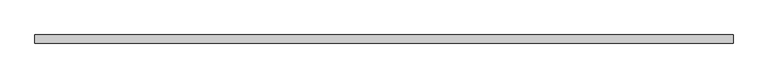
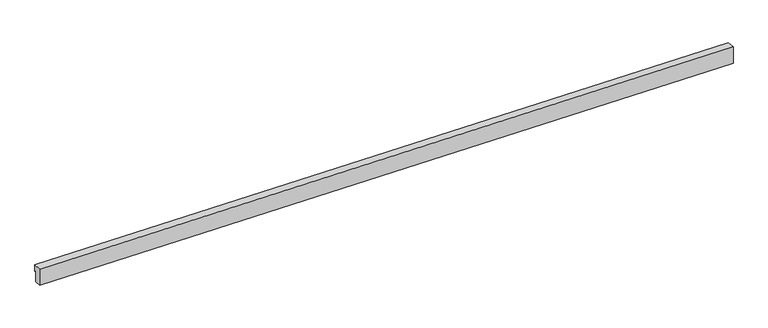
"""IFC4 building model written with IfcOpenShell, lengths in millimetres: proxy geometry, contre-corniche amont : contre-corniche."""

from ifc_helpers import new_model, si_unit, origin, place, context, project, spatial, faceted_brep, source, transform, mapped, element, save


def generic_models_6e7072ef(model_context):
    return source(origin(), model_context, "Body", "Brep", [
        faceted_brep([(-6850.0, -2900.0, 5213.5), (-6850.0, -2740.0, 5207.5), (-6850.0, -2740.0, 5074.5), (-6850.0, -2770.0, 5104.5), (-6850.0, -2770.0, 4876.75), (-6850.0, -2900.0, 4873.5), (6850.0, -2900.0, 5060.5), (6850.0, -2900.0, 4720.5), (6850.0, -2770.0, 4723.75), (6850.0, -2770.0, 4951.5), (6850.0, -2740.0, 4921.5), (6850.0, -2740.0, 5054.5)], [[[0, 1, 2, 3, 4, 5]], [[6, 7, 8, 9, 10, 11]], [[7, 6, 0, 5]], [[8, 7, 5, 4]], [[9, 8, 4, 3]], [[10, 9, 3, 2]], [[11, 10, 2, 1]], [[6, 11, 1, 0]]]),
    ])


if __name__ == "__main__":
    model = new_model("IFC4")
    model_context = context("Model", 3, world=origin())
    ifc_project = project(units=[si_unit("LENGTHUNIT", "METRE", prefix="MILLI")], contexts=[model_context])
    site = spatial("IfcSite", under=ifc_project)
    building = spatial("IfcBuilding", under=site)
    placement = place(None, origin())
    generic_models_shape = generic_models_6e7072ef(model_context)
    element("IfcBuildingElementProxy", 1, Name="contre-corniche amont : contre-corniche", ObjectType="contre-corniche amont : contre-corniche", at=placement, inside=building, context=model_context, shape_type="MappedRepresentation", body=[
        mapped(generic_models_shape, transform((0.0, 0.0, 0.0), x_axis=(1.0, 0.0, 0.0), y_axis=(0.0, 1.0, 0.0), z_axis=(0.0, 0.0, 1.0))),
    ])
    save(model, "model.ifc")
